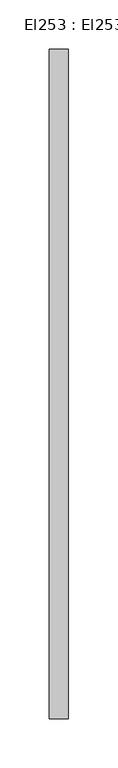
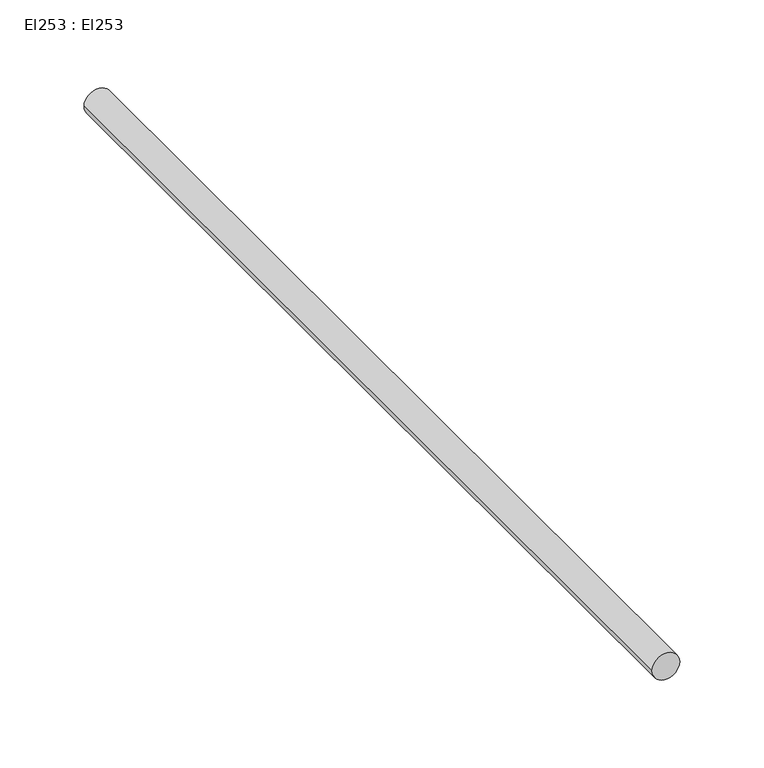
"""IFC4 building model written with IfcOpenShell, lengths in millimetres: cable carrier segment geometry, El253 : El253."""

from ifc_helpers import new_model, si_unit, point, frame, frame_2d, origin, place, context, project, spatial, circle_curve, trimmed, segment, composite_curve, outline, extrude, source, transform, mapped, element, save


def el253_el253_35eed864(model_context):
    return source(origin(), model_context, "Body", "SweptSolid", [
        extrude(outline(composite_curve([segment(trimmed(circle_curve(frame_2d((1200.0, 14630.0)), 9.5), [point((1200.0, 14620.5))], [point((1200.0, 14639.5))], False, "CARTESIAN"), True, "CONTINUOUS"), segment(trimmed(circle_curve(frame_2d((1200.0, 14630.0)), 9.5), [point((1200.0, 14639.5))], [point((1200.0, 14620.5))], False, "CARTESIAN"), True, "CONTINUOUS")], self_intersect=False)), frame((0.0, 24253.157, 0.0), z_axis=(0.0, 1.0, 0.0), x_axis=(0.0, 0.0, 1.0)), (0.0, 0.0, 1.0), 675.886),
    ])


if __name__ == "__main__":
    model = new_model("IFC4")
    model_context = context("Model", 3, world=origin())
    ifc_project = project(units=[si_unit("LENGTHUNIT", "METRE", prefix="MILLI")], contexts=[model_context])
    site = spatial("IfcSite", under=ifc_project)
    building = spatial("IfcBuilding", under=site)
    placement = place(None, origin())
    el253_el253_shape = el253_el253_35eed864(model_context)
    element("IfcCableCarrierSegment", 1, ObjectType="El253 : El253", at=placement, inside=building, context=model_context, shape_type="MappedRepresentation", body=[
        mapped(el253_el253_shape, transform((0.0, 0.0, 0.0), x_axis=(1.0, 0.0, 0.0), y_axis=(0.0, 1.0, 0.0), z_axis=(0.0, 0.0, 1.0))),
    ])
    save(model, "model.ifc")
